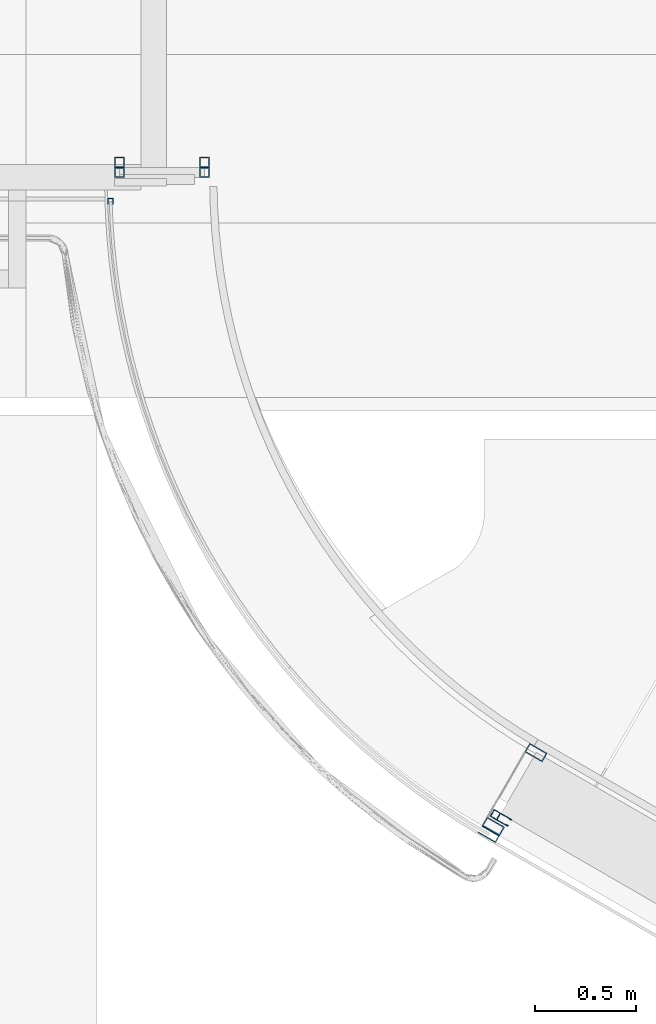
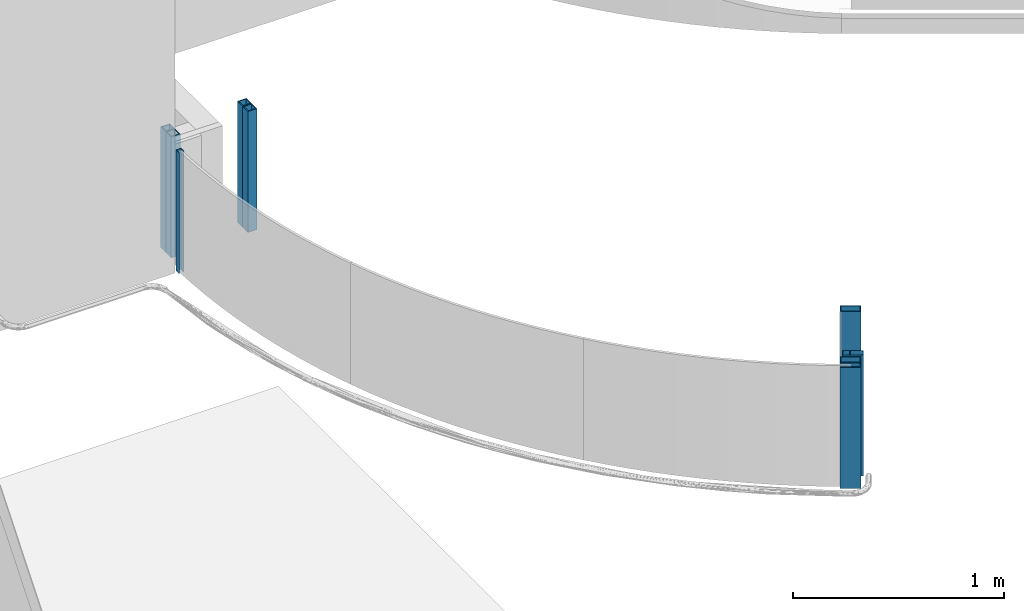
# One storey, part 1 of 18: 9 columns, 2 openings.
"""IFC2X3 building model written with IfcOpenShell, lengths in millimetres."""

from ifc_helpers import new_model, entity, si_unit, converted_unit, derived_unit, direction, frame, frame_2d, origin, origin_with_axes, origin_2d_with_axis, place, context, subcontext, project, spatial, polyline, rectangle, outline, extrude, faceted_brep, source, transform, mapped, material, type_object, element, save


model = new_model("IFC2X3")

# Units and contexts
model_context = context("Model", 3, precision=0.01, world=frame((0.0, 4.29681676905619e-09, 0.0)), true_north=direction((4.01073788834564e-13, 1.0)))
plan_context = context("Plan", 3, precision=0.01, world=frame((0.0, 4.29681676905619e-09, 0.0)), true_north=direction((4.01073788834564e-13, 1.0)))
body_context = subcontext(model_context, "Body", "Model", "MODEL_VIEW")
ifc_project = project(units=[converted_unit("PLANEANGLEUNIT", "DEGREE", entity("IfcPositiveLengthMeasure", 0.0174532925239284), si_unit("PLANEANGLEUNIT", "RADIAN"), dimensions=[0, 0, 0, 0, 0, 0, 0]), si_unit("AREAUNIT", "SQUARE_METRE"), si_unit("LENGTHUNIT", "METRE", prefix="MILLI"), si_unit("MASSUNIT", "GRAM", prefix="KILO"), si_unit("POWERUNIT", "WATT"), si_unit("PRESSUREUNIT", "PASCAL"), si_unit("FORCEUNIT", "NEWTON", prefix="KILO"), si_unit("ELECTRICVOLTAGEUNIT", "VOLT"), si_unit("ELECTRICCURRENTUNIT", "AMPERE"), si_unit("THERMODYNAMICTEMPERATUREUNIT", "DEGREE_CELSIUS"), si_unit("TIMEUNIT", "SECOND"), si_unit("VOLUMEUNIT", "CUBIC_METRE"), derived_unit("LINEARVELOCITYUNIT", [(si_unit("LENGTHUNIT", "METRE"), 1), (si_unit("TIMEUNIT", "SECOND"), -1)]), derived_unit("VOLUMETRICFLOWRATEUNIT", [(si_unit("VOLUMEUNIT", "CUBIC_METRE"), 1), (si_unit("TIMEUNIT", "SECOND"), -1)]), derived_unit("THERMALTRANSMITTANCEUNIT", [(si_unit("POWERUNIT", "WATT"), 1), (si_unit("THERMODYNAMICTEMPERATUREUNIT", "KELVIN"), -1), (si_unit("AREAUNIT", "SQUARE_METRE"), -1)]), derived_unit("SOUNDPRESSUREUNIT", [(si_unit("PRESSUREUNIT", "PASCAL"), 1)])], contexts=[model_context, plan_context])

# Site, building, storey
site_placement = place(None, origin_with_axes())
site = spatial("IfcSite", under=ifc_project, at=site_placement, Name="ENGM", CompositionType="ELEMENT")
building_placement = place(site_placement, origin_with_axes())
building = spatial("IfcBuilding", under=site, at=building_placement, Name="TH", CompositionType="ELEMENT")
storey_placement = place(building_placement, frame((0.0, 0.0, 210200.0), z_axis=(0.0, 0.0, 1.0), x_axis=(1.0, 0.0, 0.0)))
storey = spatial("IfcBuildingStorey", under=building, at=storey_placement, Name="Nivå F - 0,7 m", CompositionType="ELEMENT", Elevation=210200.0)

# Columns
ifc_material = material(Name="_NSW Stål")
column_type_1 = type_object("IfcColumnType", Name="A241 - Glassramme Book Shop:A241 - 30x27mm", PredefinedType="COLUMN", material=ifc_material)
shared_shape_1 = source(origin(), body_context, "Body", "Brep", [
    faceted_brep([(-13.4999999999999, -15.0, 210200.0), (-13.4999999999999, 15.0, 210200.0), (13.5000000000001, 15.0, 210200.0), (13.5000000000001, -15.0, 210200.0), (11.5000000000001, -15.0, 210200.0), (11.5000000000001, 13.0, 210200.0), (-11.4999999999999, 13.0, 210200.0), (-11.4999999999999, -15.0, 210200.0), (-11.4999999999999, -15.0, 210900.0), (-13.4999999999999, -15.0, 210900.0), (-11.4999999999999, 13.0, 210900.0), (11.5000000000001, 13.0, 210900.0), (11.5000000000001, -15.0, 210900.0), (13.5000000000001, -15.0, 210900.0), (13.5000000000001, 15.0, 210900.0), (-13.4999999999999, 15.0, 210900.0)], [[[0, 1, 2, 3, 4, 5, 6, 7]], [[0, 7, 8, 9]], [[7, 6, 10, 8]], [[6, 5, 11, 10]], [[5, 4, 12, 11]], [[4, 3, 13, 12]], [[3, 2, 14, 13]], [[2, 1, 15, 14]], [[1, 0, 9, 15]], [[9, 8, 10, 11, 12, 13, 14, 15]]]),
])
column_1_placement = place(storey_placement, frame((898416.697270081, 481876.850363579, -210200.0), z_axis=(0.0, 0.0, 1.0), x_axis=(1.0, 0.0, 0.0)))
element("IfcColumn", 1, at=column_1_placement, inside=storey, type_object=column_type_1, material=ifc_material, Name="A241 - Glassramme Book Shop:A241 - 30x27mm", ObjectType="A241 - Glassramme Book Shop:A241 - 30x27mm", context=body_context, shape_type="MappedRepresentation", body=[
    mapped(shared_shape_1, transform((0.0, 0.0, 0.0), scale=1.0)),
])
column_type_2 = type_object("IfcColumnType", Name="B222 - HUP7:B222 - HUP 50x50x5", PredefinedType="COLUMN", material=ifc_material)
shared_shape_2 = source(origin(), body_context, "Body", "SweptSolid", [
    extrude(outline(polyline([(-25.0, -25.0), (25.0, -25.0), (25.0, 25.0), (-25.0, 25.0), (-25.0, -25.0)]), holes=[polyline([(-20.0, -20.0), (-20.0, 20.0), (20.0, 20.0), (20.0, -20.0), (-20.0, -20.0)])]), frame((0.0, 0.0, 210200.0), z_axis=(0.0, 0.0, 1.0), x_axis=(-1.0, 0.0, 0.0)), (0.0, 0.0, 1.0), 700.000000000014),
])
for number, where, z_axis, x_axis in (
    (2, (898460.133962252, 482019.616538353, -210200.0), (0.0, 0.0, 1.0), (0.0, 1.0, 0.0)),
    (3, (898879.999999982, 482019.616538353, -210200.0), (0.0, 0.0, 1.0), (0.0, 1.0, 0.0)),
    (4, (898460.133962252, 482069.616538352, -210200.0), (0.0, 0.0, 1.0), (0.0, 1.0, 0.0)),
    (5, (898880.133962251, 482069.616538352, -210200.0), (0.0, 0.0, 1.0), (0.0, 1.0, 0.0)),
):
    element("IfcColumn", number, at=place(storey_placement, frame(where, z_axis=z_axis, x_axis=x_axis)), inside=storey, type_object=column_type_2, material=ifc_material, Name="B222 - HUP7:B222 - HUP 50x50x5", ObjectType="B222 - HUP7:B222 - HUP 50x50x5", context=body_context, shape_type="MappedRepresentation", body=[
        mapped(shared_shape_2, transform((0.0, 0.0, 0.0), scale=1.0)),
    ])

# Column, opening
column_type_3 = type_object("IfcColumnType", Name="B222 - HUP7:B222 - HUP 100x50x5", PredefinedType="COLUMN", material=ifc_material)
shared_shape_3 = source(origin(), body_context, "Body", "SweptSolid", [
    extrude(rectangle(XDim=700.000000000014, YDim=100.0, at=frame_2d((-1.73372427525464e-11, 0.0), x_axis=(1.0, 0.0))), frame((-25.0, 0.0, 210550.0), z_axis=(1.0, 0.0, 0.0), x_axis=(0.0, 0.0, 1.0)), (0.0, 0.0, 1.0), 50.0),
])
column_2_placement = place(storey_placement, frame((900304.037776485, 478794.516156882, -210200.0), z_axis=(0.0, 0.0, 1.0), x_axis=(0.500000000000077, 0.866025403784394, 0.0)))
column_2 = element("IfcColumn", 6, at=column_2_placement, inside=storey, type_object=column_type_3, material=ifc_material, Name="B222 - HUP7:B222 - HUP 100x50x5", ObjectType="B222 - HUP7:B222 - HUP 100x50x5", context=body_context, shape_type="MappedRepresentation", body=[
    mapped(shared_shape_3, transform((0.0, 0.0, 0.0), scale=1.0)),
])
opening_1_placement = place(column_2_placement, frame((0.0, 0.0, 210200.0), z_axis=(0.0, 0.0, 1.0), x_axis=(0.500000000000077, 0.866025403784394, 0.0)))
element("IfcOpeningElement", 7, at=opening_1_placement, cuts=column_2, Name="B222 - HUP7:B222 - HUP 100x50x5:1", ObjectType="Opening", context=body_context, shape_type="SweptSolid", body=[
    extrude(rectangle(XDim=39.9999999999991, YDim=90.0, at=frame_2d((-3.5527136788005e-15, 0.0), x_axis=(1.0, 0.0))), frame((0.0, 0.0, 0.0), z_axis=(0.0, 0.0, 1.0), x_axis=(-0.500000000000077, 0.866025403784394, 0.0)), (0.0, 0.0, 1.0), 700.000000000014),
])

# Columns
column_type_4 = type_object("IfcColumnType", Name="A243 - Rullegardinskinner:A243 - Portskinne Book Shop", PredefinedType="COLUMN", material=ifc_material)
shared_shape_4 = source(origin(), body_context, "Body", "Brep", [
    faceted_brep([(-20.0, 100.0, 210200.0), (-14.0, 100.0, 210200.0), (-14.0, 90.0, 210200.0), (-17.0, 90.0, 210200.0), (-17.0, 38.0, 210200.0), (17.0, 38.0, 210200.0), (17.0, 90.0, 210200.0), (14.0, 90.0, 210200.0), (14.0, 100.0, 210200.0), (20.0, 100.0, 210200.0), (20.0, 0.0, 210200.0), (-20.0, 0.0, 210200.0), (-17.0, 35.0, 210200.0), (-17.0, 3.0, 210200.0), (17.0, 3.0, 210200.0), (17.0, 35.0, 210200.0), (-20.0, 100.0, 210900.0), (-14.0, 100.0, 210900.0), (-14.0, 90.0, 210900.0), (-17.0, 90.0, 210900.0), (-17.0, 38.0, 210900.0), (17.0, 38.0, 210900.0), (17.0, 90.0, 210900.0), (14.0, 90.0, 210900.0), (14.0, 100.0, 210900.0), (20.0, 100.0, 210900.0), (20.0, 0.0, 210900.0), (-20.0, 0.0, 210900.0), (-17.0, 35.0, 210900.0), (-17.0, 3.0, 210900.0), (17.0, 3.0, 210900.0), (17.0, 35.0, 210900.0)], [[[0, 1, 2, 3, 4, 5, 6, 7, 8, 9, 10, 11], [12, 13, 14, 15]], [[1, 0, 16, 17]], [[2, 1, 17, 18]], [[3, 2, 18, 19]], [[4, 3, 19, 20]], [[5, 4, 20, 21]], [[6, 5, 21, 22]], [[7, 6, 22, 23]], [[8, 7, 23, 24]], [[9, 8, 24, 25]], [[10, 9, 25, 26]], [[11, 10, 26, 27]], [[0, 11, 27, 16]], [[13, 12, 28, 29]], [[14, 13, 29, 30]], [[15, 14, 30, 31]], [[12, 15, 31, 28]], [[17, 16, 27, 26, 25, 24, 23, 22, 21, 20, 19, 18], [29, 28, 31, 30]]]),
])
column_3_placement = place(storey_placement, frame((900297.891278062, 478861.525063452, -210200.0), z_axis=(0.0, 0.0, 1.0), x_axis=(-0.499999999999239, -0.866025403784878, 0.0)))
element("IfcColumn", 8, at=column_3_placement, inside=storey, type_object=column_type_4, material=ifc_material, Name="A243 - Rullegardinskinner:A243 - Portskinne Book Shop", ObjectType="A243 - Rullegardinskinner:A243 - Portskinne Book Shop", context=body_context, shape_type="MappedRepresentation", body=[
    mapped(shared_shape_4, transform((0.0, 0.0, 0.0), scale=1.0)),
])
column_type_5 = type_object("IfcColumnType", Name="A241 - Glassramme Book Shop:A241 - 100x40mm", PredefinedType="COLUMN", material=ifc_material)
shared_shape_5 = source(origin(), body_context, "Body", "Brep", [
    faceted_brep([(-20.0, -50.0, 210200.0), (-20.0, 50.0, 210200.0), (20.0, 50.0, 210200.0), (20.0, -50.0, 210200.0), (15.0, -50.0, 210200.0), (15.0, 45.0, 210200.0), (-15.0, 45.0, 210200.0), (-15.0, -50.0, 210200.0), (-15.0, -50.0, 210900.0), (-20.0, -50.0, 210900.0), (-15.0, 45.0, 210900.0), (15.0, 45.0, 210900.0), (15.0, -50.0, 210900.0), (20.0, -50.0, 210900.0), (20.0, 50.0, 210900.0), (-20.0, 50.0, 210900.0)], [[[0, 1, 2, 3, 4, 5, 6, 7]], [[0, 7, 8, 9]], [[7, 6, 10, 8]], [[6, 5, 11, 10]], [[5, 4, 12, 11]], [[4, 3, 13, 12]], [[3, 2, 14, 13]], [[2, 1, 15, 14]], [[1, 0, 9, 15]], [[9, 8, 10, 11, 12, 13, 14, 15]]]),
])
column_4_placement = place(storey_placement, frame((900281.537776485, 478755.545013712, -210200.0), z_axis=(0.0, 0.0, 1.0), x_axis=(-0.499999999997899, -0.866025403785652, 0.0)))
element("IfcColumn", 9, at=column_4_placement, inside=storey, type_object=column_type_5, material=ifc_material, Name="A241 - Glassramme Book Shop:A241 - 100x40mm", ObjectType="A241 - Glassramme Book Shop:A241 - 100x40mm", context=body_context, shape_type="MappedRepresentation", body=[
    mapped(shared_shape_5, transform((0.0, 0.0, 0.0), scale=1.0)),
])

# Column, opening
column_type_6 = type_object("IfcColumnType", Name="B222 - HUP7:B222 - HUP 100x50x5", PredefinedType="COLUMN", material=ifc_material)
shared_shape_6 = source(origin(), body_context, "Body", "SweptSolid", [
    extrude(rectangle(XDim=700.000000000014, YDim=100.0, at=frame_2d((-1.73372427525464e-11, 0.0), x_axis=(1.0, 0.0))), frame((-25.0, 0.0, 210550.0), z_axis=(1.0, 0.0, 0.0), x_axis=(0.0, 0.0, 1.0)), (0.0, 0.0, 1.0), 50.0),
])
column_5_placement = place(storey_placement, frame((900514.036592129, 479158.244775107, -210200.0), z_axis=(0.0, 0.0, 1.0), x_axis=(0.500000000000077, 0.866025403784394, 0.0)))
column_5 = element("IfcColumn", 10, at=column_5_placement, inside=storey, type_object=column_type_6, material=ifc_material, Name="B222 - HUP7:B222 - HUP 100x50x5", ObjectType="B222 - HUP7:B222 - HUP 100x50x5", context=body_context, shape_type="MappedRepresentation", body=[
    mapped(shared_shape_6, transform((0.0, 0.0, 0.0), scale=1.0)),
])
opening_2_placement = place(column_5_placement, frame((0.0, 0.0, 210200.0), z_axis=(0.0, 0.0, 1.0), x_axis=(0.500000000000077, 0.866025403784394, 0.0)))
element("IfcOpeningElement", 11, at=opening_2_placement, cuts=column_5, Name="B222 - HUP7:B222 - HUP 100x50x5:1", ObjectType="Opening", context=body_context, shape_type="SweptSolid", body=[
    extrude(rectangle(XDim=90.0, YDim=39.9999999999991, at=origin_2d_with_axis()), frame((0.0, 0.0, 700.0), z_axis=(0.0, 0.0, -1.0), x_axis=(-0.866025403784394, -0.500000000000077, 0.0)), (0.0, 0.0, 1.0), 700.000000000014),
])

save(model, "model.ifc")
